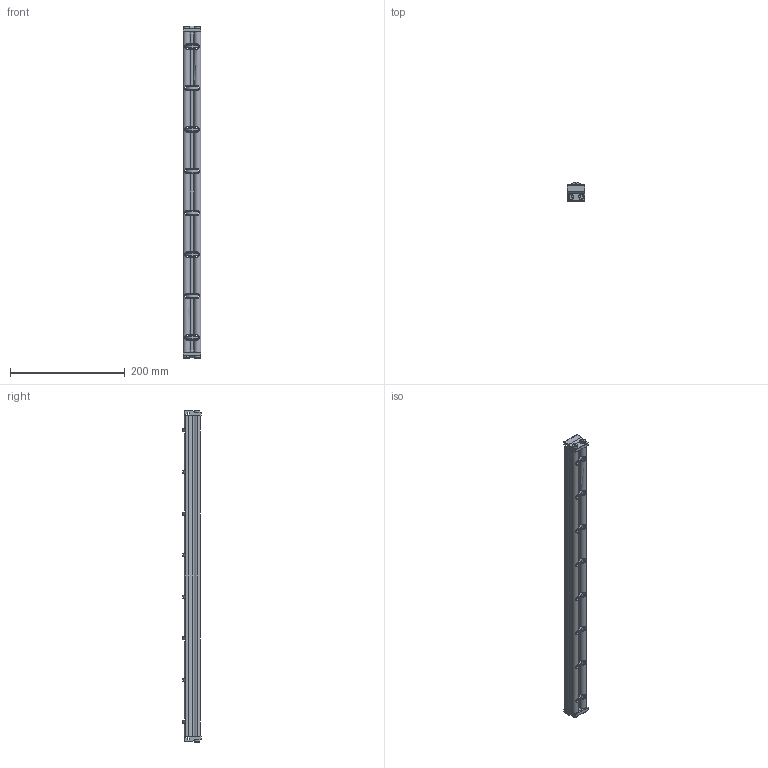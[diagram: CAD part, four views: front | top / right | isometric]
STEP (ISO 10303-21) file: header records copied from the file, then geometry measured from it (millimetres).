
FILE_DESCRIPTION((''),'2;1');
FILE_NAME('206523-22_ASM','2023-02-27T',('jenni.wallner'),(''),'PRO/ENGINEER BY PARAMETRIC TECHNOLOGY CORPORATION, 2012420','PRO/ENGINEER BY PARAMETRIC TECHNOLOGY CORPORATION, 2012420','');
FILE_SCHEMA(('CONFIG_CONTROL_DESIGN'));
Length unit declared in the file: inch
Products named in the file (7): 240826; 9506XXM_950616M; 205977_205978_205979_205978; 2410WW_241022; 2436WW_243622; ASM0001_ASM; 206523-22_ASM
Assembly tree (17 placements, depth 3):
  206523-22_ASM
    ASM0001_ASM
      240826  x8
      9506XXM_950616M  x4
      205977_205978_205979_205978  x2
      2410WW_241022
      2436WW_243622
Bounding box: 30.89 x 33.01 x 579.35 mm (x, y, z)
Volume: 276964.3 mm3; surface area: 166870.1 mm2
Topology: 16 solids, 16 shells, 562 faces, 1570 edges, 1032 vertices
Faces by surface type: cylinder 252, plane 194, cone 84, torus 32
Entity records: 13333 total; most frequent: CARTESIAN_POINT 3536, ORIENTED_EDGE 2146, DIRECTION 1973, EDGE_CURVE 1073, AXIS2_PLACEMENT_3D 733, VERTEX_POINT 714, VECTOR 507, LINE 507
